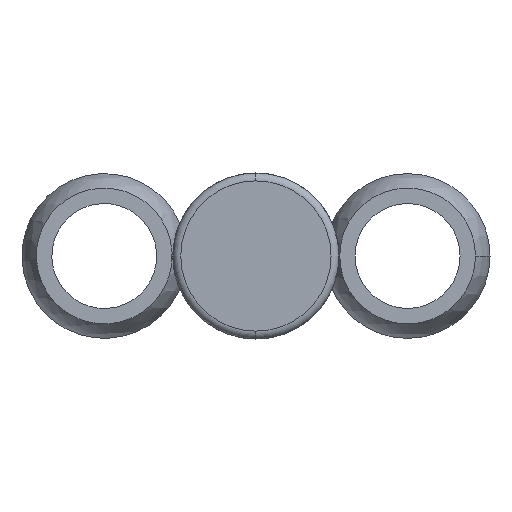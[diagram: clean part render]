
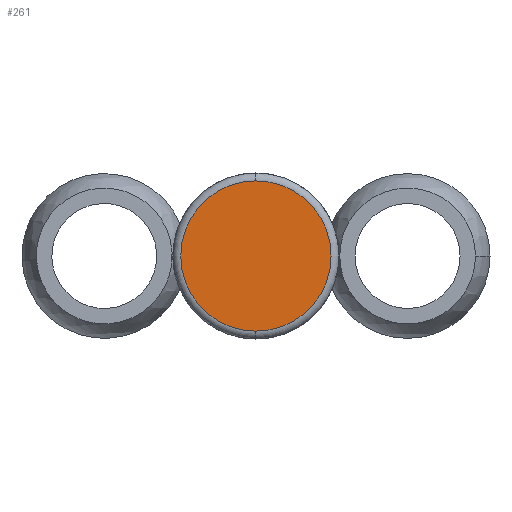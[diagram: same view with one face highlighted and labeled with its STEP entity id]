
A CAD part, front view. The second image highlights one B-rep face of the part: STEP entity #261.
In plain terms, the highlighted planar face has unit normal (0, -1, 0).
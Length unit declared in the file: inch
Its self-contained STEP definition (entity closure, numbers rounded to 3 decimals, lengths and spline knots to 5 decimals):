
#91 = PLANE ( 'NONE',  #775 ) ;
#242 = FACE_OUTER_BOUND ( 'NONE', #530, .T. ) ;
#246 = ORIENTED_EDGE ( 'NONE', *, *, #1278, .T. ) ;
#261 = ADVANCED_FACE ( 'NONE', ( #242 ), #91, .F. ) ;
#265 = AXIS2_PLACEMENT_3D ( 'NONE', #1516, #751, #1391 ) ;
#343 = CARTESIAN_POINT ( 'NONE',  ( 0., -1.063, 0. ) ) ;
#366 = DIRECTION ( 'NONE',  ( 0., 1., 0. ) ) ;
#467 = VERTEX_POINT ( 'NONE', #1054 ) ;
#530 = EDGE_LOOP ( 'NONE', ( #246, #1300 ) ) ;
#600 = VERTEX_POINT ( 'NONE', #749 ) ;
#606 = EDGE_CURVE ( 'NONE', #467, #600, #1034, .T. ) ;
#628 = DIRECTION ( 'NONE',  ( 0., 0., 1. ) ) ;
#636 = DIRECTION ( 'NONE',  ( 0., 0., 1. ) ) ;
#749 = CARTESIAN_POINT ( 'NONE',  ( 0., -1.063, 0.28496 ) ) ;
#751 = DIRECTION ( 'NONE',  ( 0., -1., 0. ) ) ;
#775 = AXIS2_PLACEMENT_3D ( 'NONE', #343, #366, #636 ) ;
#995 = CARTESIAN_POINT ( 'NONE',  ( 0., -1.063, 0. ) ) ;
#1034 = CIRCLE ( 'NONE', #1537, 0.28496 ) ;
#1054 = CARTESIAN_POINT ( 'NONE',  ( 0., -1.063, -0.28496 ) ) ;
#1139 = DIRECTION ( 'NONE',  ( 0., -1., 0. ) ) ;
#1278 = EDGE_CURVE ( 'NONE', #600, #467, #1350, .T. ) ;
#1300 = ORIENTED_EDGE ( 'NONE', *, *, #606, .T. ) ;
#1350 = CIRCLE ( 'NONE', #265, 0.28496 ) ;
#1391 = DIRECTION ( 'NONE',  ( 0., 0., 1. ) ) ;
#1516 = CARTESIAN_POINT ( 'NONE',  ( 0., -1.063, 0. ) ) ;
#1537 = AXIS2_PLACEMENT_3D ( 'NONE', #995, #1139, #628 ) ;
